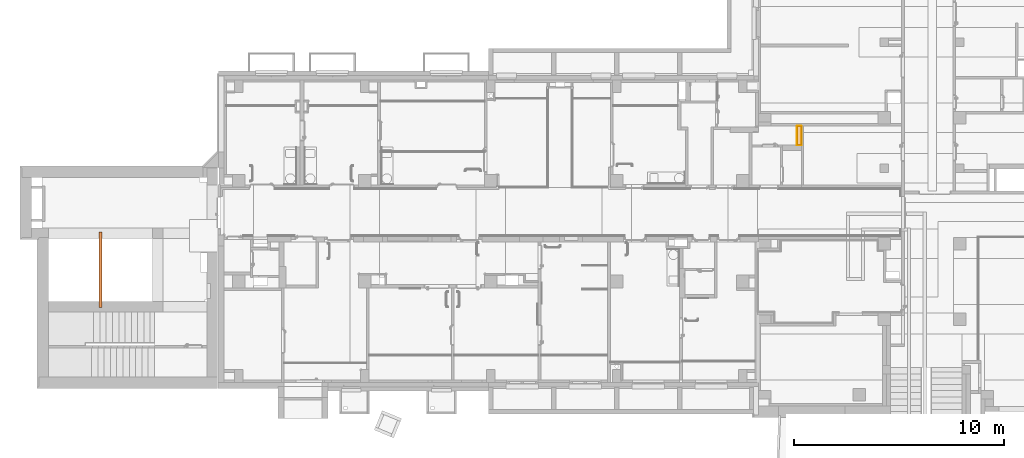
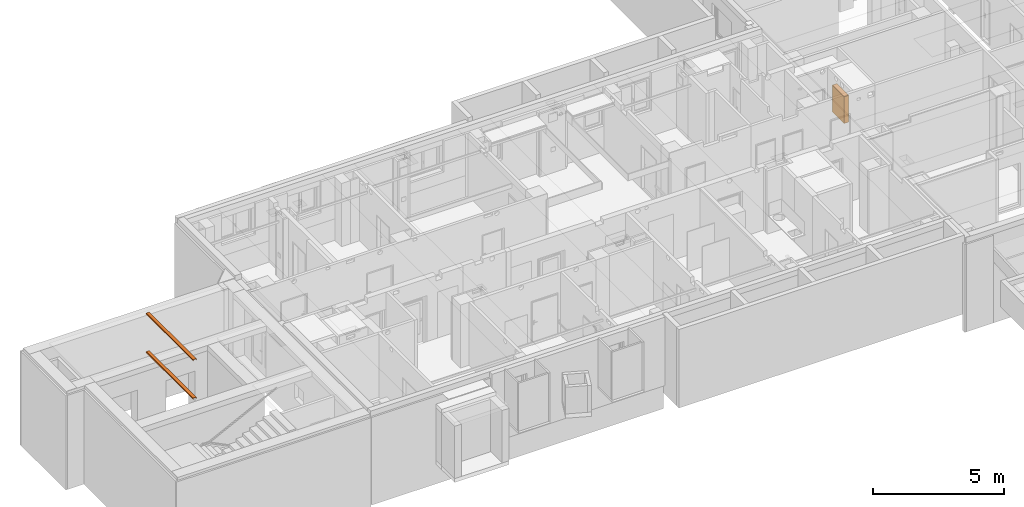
# One storey, part 83 of 84: 3 proxies, 2 coverings.
"""IFC4 building model written with IfcOpenShell, lengths in metres."""

from ifc_helpers import new_model, entity, si_unit, converted_unit, derived_unit, frame, frame_2d, origin, origin_with_axes, place, context, subcontext, project, spatial, rectangle, extrude, faceted_brep, source, transform, mapped, material, layer, layer_set, layer_usage, element, aggregate, save


model = new_model("IFC4")

# Units and contexts
model_context = context("Model", 3, precision=1e-05, world=origin())
body_context = subcontext(model_context, "Body", "Model", "MODEL_VIEW")
ifc_project = project(units=[si_unit("LENGTHUNIT", "METRE"), si_unit("AREAUNIT", "SQUARE_METRE"), si_unit("VOLUMEUNIT", "CUBIC_METRE"), si_unit("MASSUNIT", "GRAM", prefix="KILO"), converted_unit("PLANEANGLEUNIT", "DEGREE", entity("IfcPlaneAngleMeasure", 0.0174532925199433), si_unit("PLANEANGLEUNIT", "RADIAN"), dimensions=[0, 0, 0, 0, 0, 0, 0]), derived_unit("THERMALTRANSMITTANCEUNIT", [(si_unit("POWERUNIT", "WATT"), 1), (si_unit("THERMODYNAMICTEMPERATUREUNIT", "KELVIN"), -1), (si_unit("LENGTHUNIT", "METRE"), -2)]), derived_unit("VOLUMETRICFLOWRATEUNIT", [(si_unit("LENGTHUNIT", "METRE"), 3), (converted_unit("TIMEUNIT", "hour", entity("IfcTimeMeasure", 3600.0), si_unit("TIMEUNIT", "SECOND"), dimensions=[0, 0, 1, 0, 0, 0, 0]), -1), (si_unit("LENGTHUNIT", "METRE"), -1)])], contexts=[model_context])

# Site, building, storey
site_placement = place(None, origin())
site = spatial("IfcSite", under=ifc_project, at=site_placement, Name="3. ASŘ", CompositionType="ELEMENT")
building_placement = place(site_placement, origin())
building = spatial("IfcBuilding", under=site, at=building_placement, Name="Pavilon C", CompositionType="ELEMENT")
storey_placement = place(building_placement, frame((0.0, 0.0, -3.3)))
storey = spatial("IfcBuildingStorey", under=building, at=storey_placement, Name="Půdorys 1.PP", CompositionType="ELEMENT", Elevation=-3.3)

# Covering
ifc_material_1 = material(Name="KERAMICKÝ OBKLAD")
ifc_layer_1 = layer(ifc_material_1, 0.015)
ifc_layer_set_1 = layer_set([ifc_layer_1])
ifc_layer_usage_1 = layer_usage(ifc_layer_set_1, "AXIS3", "POSITIVE", 0.0)
proxy_3_placement = place(storey_placement, frame((26.8, 11.9, 0.0)))
covering_1_placement = place(proxy_3_placement, frame((-0.2, 0.0, 1.25)))
covering_1 = element("IfcCovering", 1, at=covering_1_placement, inside=storey, material=ifc_layer_usage_1, PredefinedType="FLOORING", context=body_context, shape_type="SweptSolid", body=[
    extrude(rectangle(XDim=0.2, YDim=0.9, at=frame_2d((-0.1, -0.45), x_axis=(-1.0, 0.0))), frame((0.2, 0.0, 0.0), z_axis=(0.0, 0.0, -1.0), x_axis=(1.0, 0.0, 0.0)), (0.0, 0.0, -1.0), 0.015),
])

ifc_material_2 = material(Name="KERAMICKÝ OBKLAD")
ifc_layer_2 = layer(ifc_material_2, 0.015)
ifc_layer_set_2 = layer_set([ifc_layer_2])
ifc_layer_usage_2 = layer_usage(ifc_layer_set_2, "AXIS3", "POSITIVE", 0.0)
covering_2_placement = place(proxy_3_placement, frame((-0.2, 0.0, 0.0)))
covering_2 = element("IfcCovering", 2, at=covering_2_placement, inside=storey, material=ifc_layer_usage_2, PredefinedType="CLADDING", context=body_context, shape_type="SweptSolid", body=[
    extrude(rectangle(XDim=0.2, YDim=1.25, at=frame_2d((0.1, -0.625), x_axis=(1.0, 0.0))), frame((0.0, 0.9, 0.0), z_axis=(0.0, 1.0, 0.0), x_axis=(1.0, 0.0, 0.0)), (0.0, 0.0, 1.0), 0.015),
    extrude(rectangle(XDim=0.9, YDim=1.25, at=frame_2d((0.45, -0.625), x_axis=(1.0, 0.0))), frame((0.0, 0.0, 0.0), z_axis=(-1.0, 0.0, 0.0), x_axis=(0.0, 1.0, 0.0)), (0.0, 0.0, 1.0), 0.015),
    extrude(rectangle(XDim=0.2, YDim=1.25, at=frame_2d((0.1, -0.625), x_axis=(1.0, 0.0))), frame((0.2, 0.0, 0.0), z_axis=(0.0, -1.0, 0.0), x_axis=(-1.0, 0.0, 0.0)), (0.0, 0.0, 1.0), 0.015),
    extrude(rectangle(XDim=0.9, YDim=1.25, at=frame_2d((0.45, -0.625), x_axis=(1.0, 0.0))), frame((0.2, 0.9, 0.0), z_axis=(1.0, 0.0, 0.0), x_axis=(0.0, -1.0, 0.0)), (0.0, 0.0, 1.0), 0.015),
])

# Proxies
ifc_material_3 = material(Name="U 140")
shared_shape = source(origin_with_axes(), body_context, "Body", "Brep", [
    faceted_brep([(7.105427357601e-18, 0.0, 0.0), (0.06, 0.0, 0.0), (0.06, 0.14, 0.0), (7.105427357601e-18, 0.14, 0.0), (0.0, 0.137015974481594, 0.0), (0.000220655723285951, 0.135547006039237, 0.0), (0.000863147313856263, 0.134207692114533, 0.0), (0.00187076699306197, 0.133116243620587, 0.0), (0.00315457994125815, 0.132368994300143, 0.0), (0.00460127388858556, 0.132031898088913, 0.0), (0.0437974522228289, 0.128896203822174, 0.0), (0.0466908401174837, 0.128222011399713, 0.0), (0.0492584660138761, 0.126727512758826, 0.0), (0.0512737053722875, 0.124544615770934, 0.0), (0.0525586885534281, 0.121865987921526, 0.0), (0.053, 0.118928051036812, 0.0), (0.053, 0.0210719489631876, 0.0), (0.0525586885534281, 0.0181340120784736, 0.0), (0.0512737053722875, 0.0154553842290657, 0.0), (0.0492584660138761, 0.0132724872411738, 0.0), (0.0466908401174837, 0.0117779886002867, 0.0), (0.0437974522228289, 0.0111037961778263, 0.0), (0.00460127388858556, 0.00796810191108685, 0.0), (0.00315457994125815, 0.00763100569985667, 0.0), (0.00187076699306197, 0.00688375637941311, 0.0), (0.000863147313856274, 0.00579230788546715, 0.0), (0.000220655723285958, 0.00445299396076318, 0.0), (7.105427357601e-18, 0.00298402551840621, 0.0), (0.06, 0.0, 3.6), (7.105427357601e-18, 0.0, 3.6), (7.105427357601e-18, 0.00298402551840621, 3.6), (0.000220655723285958, 0.00445299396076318, 3.6), (0.000863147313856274, 0.00579230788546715, 3.6), (0.00187076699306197, 0.00688375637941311, 3.6), (0.00315457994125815, 0.00763100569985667, 3.6), (0.00460127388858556, 0.00796810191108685, 3.6), (0.0437974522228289, 0.0111037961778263, 3.6), (0.0466908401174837, 0.0117779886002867, 3.6), (0.0492584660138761, 0.0132724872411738, 3.6), (0.0512737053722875, 0.0154553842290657, 3.6), (0.0525586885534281, 0.0181340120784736, 3.6), (0.053, 0.0210719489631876, 3.6), (0.053, 0.118928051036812, 3.6), (0.0525586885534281, 0.121865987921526, 3.6), (0.0512737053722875, 0.124544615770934, 3.6), (0.0492584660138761, 0.126727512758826, 3.6), (0.0466908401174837, 0.128222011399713, 3.6), (0.0437974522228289, 0.128896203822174, 3.6), (0.00460127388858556, 0.132031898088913, 3.6), (0.00315457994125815, 0.132368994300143, 3.6), (0.00187076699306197, 0.133116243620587, 3.6), (0.000863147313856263, 0.134207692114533, 3.6), (0.000220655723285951, 0.135547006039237, 3.6), (0.0, 0.137015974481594, 3.6), (7.105427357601e-18, 0.14, 3.6), (0.06, 0.14, 3.6)], [[[0, 1, 2, 3, 4, 5, 6, 7, 8, 9, 10, 11, 12, 13, 14, 15, 16, 17, 18, 19, 20, 21, 22, 23, 24, 25, 26, 27]], [[28, 29, 30, 31, 32, 33, 34, 35, 36, 37, 38, 39, 40, 41, 42, 43, 44, 45, 46, 47, 48, 49, 50, 51, 52, 53, 54, 55]], [[1, 0, 29, 28]], [[2, 1, 28, 55]], [[3, 2, 55, 54]], [[4, 3, 54, 53]], [[5, 4, 53, 52]], [[6, 5, 52, 51]], [[7, 6, 51, 50]], [[8, 7, 50, 49]], [[9, 8, 49, 48]], [[10, 9, 48, 47]], [[11, 10, 47, 46]], [[12, 11, 46, 45]], [[13, 12, 45, 44]], [[14, 13, 44, 43]], [[15, 14, 43, 42]], [[16, 15, 42, 41]], [[17, 16, 41, 40]], [[18, 17, 40, 39]], [[19, 18, 39, 38]], [[20, 19, 38, 37]], [[21, 20, 37, 36]], [[22, 21, 36, 35]], [[23, 22, 35, 34]], [[24, 23, 34, 33]], [[25, 24, 33, 32]], [[26, 25, 32, 31]], [[27, 26, 31, 30]], [[0, 27, 30, 29]]], orient=[[False], [False], [False], [False], [False], [False], [False], [False], [False], [False], [False], [False], [False], [False], [False], [False], [False], [False], [False], [False], [False], [False], [False], [False], [False], [False], [False], [False], [False], [False]]),
])
proxy_1_placement = place(storey_placement, frame((-6.52999999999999, 7.75, 3.44), z_axis=(-1.22464679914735e-16, -1.0, -2.44929359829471e-16), x_axis=(-5.34329236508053e-33, -2.44929359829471e-16, 1.0)))
element("IfcBuildingElementProxy", 3, at=proxy_1_placement, inside=storey, material=ifc_material_3, Name="Ocelový profil", context=body_context, shape_type="MappedRepresentation", body=[
    mapped(shared_shape, transform((0.0, 0.0, 0.0), x_axis=(1.0, 0.0, 0.0), y_axis=(0.0, 1.0, 0.0), z_axis=(0.0, 0.0, 1.0), scale=1.0)),
])
ifc_material_4 = material(Name="U 140")
proxy_2_placement = place(storey_placement, frame((-6.52999999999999, 7.75, 5.24), z_axis=(-1.22464679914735e-16, -1.0, -2.44929359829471e-16), x_axis=(-5.34329236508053e-33, -2.44929359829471e-16, 1.0)))
element("IfcBuildingElementProxy", 4, at=proxy_2_placement, inside=storey, material=ifc_material_4, Name="Ocelový profil", context=body_context, shape_type="MappedRepresentation", body=[
    mapped(shared_shape, transform((0.0, 0.0, 0.0), x_axis=(1.0, 0.0, 0.0), y_axis=(0.0, 1.0, 0.0), z_axis=(0.0, 0.0, 1.0), scale=1.0)),
])

# Proxy
ifc_material_5 = material(Name="SDK INSTAL. PŘDSTĚNA NÍZKÁ")
proxy_3 = element("IfcBuildingElementProxy", 5, at=proxy_3_placement, inside=storey, material=ifc_material_5, Name="SDK INSTAL. PŘDSTĚNA NÍZKÁ", context=body_context, shape_type="SweptSolid", body=[
    extrude(rectangle(XDim=0.9, YDim=0.2, at=frame_2d((-0.1, 0.45), x_axis=(0.0, 1.0))), origin_with_axes(), (0.0, 0.0, 1.0), 1.25),
])

aggregate(proxy_3, [covering_1, covering_2])

save(model, "model.ifc")
